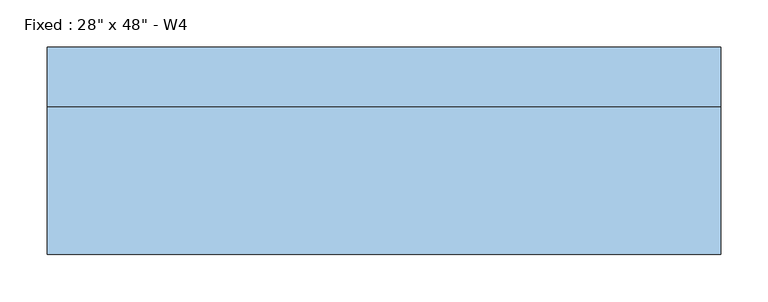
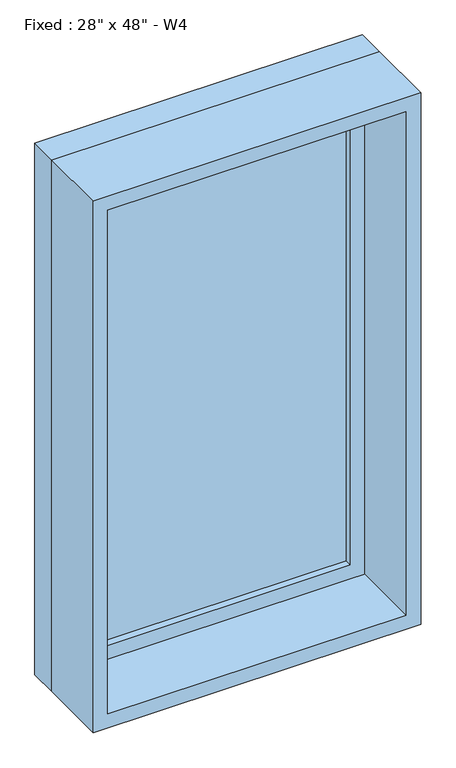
"""IFC4 building model written with IfcOpenShell, lengths in millimetres: window geometry."""

from ifc_helpers import new_model, si_unit, frame, origin, place, context, project, spatial, polyline, outline, extrude, source, transform, mapped, element, save


def window_b7da1b20(model_context):
    return source(origin(), model_context, "Body", "SweptSolid", [
        extrude(outline(polyline([(254.0, 61.9125), (-330.2, 61.9125), (-330.2, 74.6125), (254.0, 74.6125), (254.0, 61.9125)])), frame((0.0, 0.0, 977.9), z_axis=(0.0, 0.0, 1.0), x_axis=(1.0, 0.0, 0.0)), (0.0, 0.0, 1.0), 1092.2),
        extrude(outline(polyline([(2114.55, -374.65), (933.45, -374.65), (933.45, 298.45), (2114.55, 298.45), (2114.55, -374.65)]), holes=[polyline([(2070.1, -330.2), (2070.1, 254.0), (977.9, 254.0), (977.9, -330.2), (2070.1, -330.2)])]), frame((0.0, 46.0375, 0.0), z_axis=(0.0, 1.0, 0.0), x_axis=(0.0, 0.0, 1.0)), (0.0, 0.0, 1.0), 44.45),
        extrude(outline(polyline([(2133.6, -393.7), (914.4, -393.7), (914.4, 317.5), (2133.6, 317.5), (2133.6, -393.7)]), holes=[polyline([(2101.85, -361.95), (2101.85, 285.75), (946.15, 285.75), (946.15, -361.95), (2101.85, -361.95)])]), frame((0.0, -109.5375, 0.0), z_axis=(0.0, 1.0, 0.0), x_axis=(0.0, 0.0, 1.0)), (0.0, 0.0, 1.0), 155.575),
        extrude(outline(polyline([(2133.6, 317.5), (2133.6, -393.7), (914.4, -393.7), (914.4, 317.5), (2133.6, 317.5)]), holes=[polyline([(2114.55, 298.45), (933.45, 298.45), (933.45, -374.65), (2114.55, -374.65), (2114.55, 298.45)])]), frame((0.0, 46.0375, 0.0), z_axis=(0.0, 1.0, 0.0), x_axis=(0.0, 0.0, 1.0)), (0.0, 0.0, 1.0), 63.5),
    ])


if __name__ == "__main__":
    model = new_model("IFC4")
    model_context = context("Model", 3, world=origin())
    ifc_project = project(units=[si_unit("LENGTHUNIT", "METRE", prefix="MILLI")], contexts=[model_context])
    site = spatial("IfcSite", under=ifc_project)
    building = spatial("IfcBuilding", under=site)
    placement = place(None, origin())
    window_shape = window_b7da1b20(model_context)
    element("IfcWindow", 1, ObjectType="Fixed : 28\" x 48\" - W4", at=placement, inside=building, context=model_context, shape_type="MappedRepresentation", body=[
        mapped(window_shape, transform((0.0, 0.0, 0.0), x_axis=(1.0, 0.0, 0.0), y_axis=(0.0, 1.0, 0.0), z_axis=(0.0, 0.0, 1.0))),
    ])
    save(model, "model.ifc")
